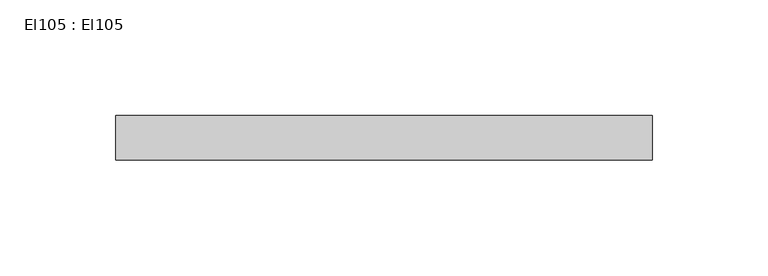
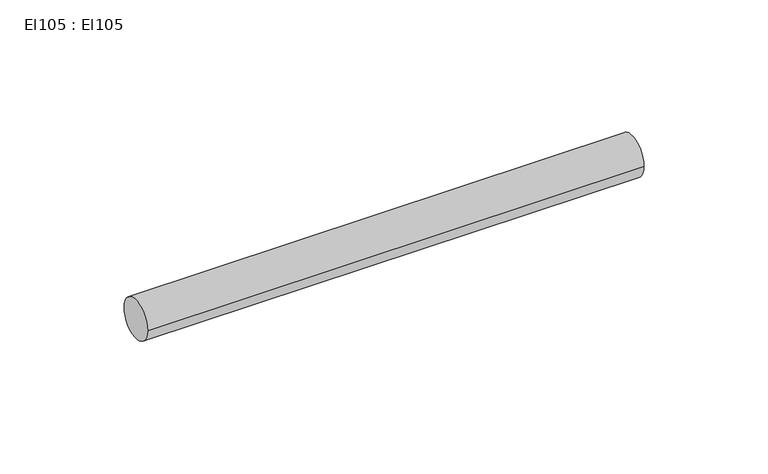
"""IFC4 building model written with IfcOpenShell, lengths in millimetres: cable carrier segment geometry, El105 : El105."""

from ifc_helpers import new_model, si_unit, point, frame, frame_2d, origin, place, context, project, spatial, circle_curve, trimmed, segment, composite_curve, outline, extrude, source, transform, mapped, element, save


def el105_el105_8c704fa7(model_context):
    return source(origin(), model_context, "Body", "SweptSolid", [
        extrude(outline(composite_curve([segment(trimmed(circle_curve(frame_2d((15372.1, 1200.0)), 9.5), [point((15362.6, 1200.0))], [point((15381.6, 1200.0))], False, "CARTESIAN"), True, "CONTINUOUS"), segment(trimmed(circle_curve(frame_2d((15372.1, 1200.0)), 9.5), [point((15381.6, 1200.0))], [point((15362.6, 1200.0))], False, "CARTESIAN"), True, "CONTINUOUS")], self_intersect=False)), frame((27648.059, 0.0, 0.0), z_axis=(1.0, 0.0, 0.0), x_axis=(0.0, 1.0, 0.0)), (0.0, 0.0, 1.0), 231.082),
    ])


if __name__ == "__main__":
    model = new_model("IFC4")
    model_context = context("Model", 3, world=origin())
    ifc_project = project(units=[si_unit("LENGTHUNIT", "METRE", prefix="MILLI")], contexts=[model_context])
    site = spatial("IfcSite", under=ifc_project)
    building = spatial("IfcBuilding", under=site)
    placement = place(None, origin())
    el105_el105_shape = el105_el105_8c704fa7(model_context)
    element("IfcCableCarrierSegment", 1, ObjectType="El105 : El105", at=placement, inside=building, context=model_context, shape_type="MappedRepresentation", body=[
        mapped(el105_el105_shape, transform((0.0, 0.0, 0.0), x_axis=(1.0, 0.0, 0.0), y_axis=(0.0, 1.0, 0.0), z_axis=(0.0, 0.0, 1.0))),
    ])
    save(model, "model.ifc")
